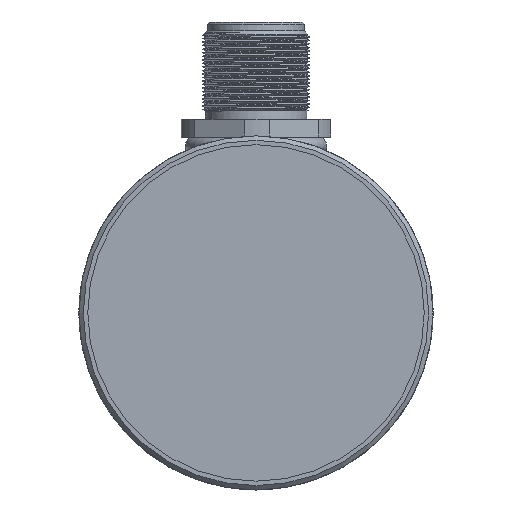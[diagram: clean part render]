
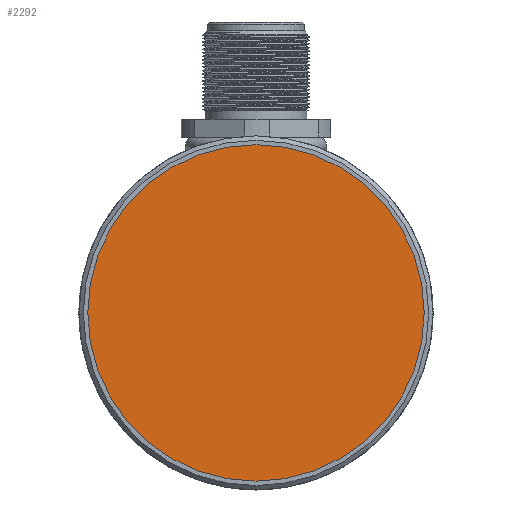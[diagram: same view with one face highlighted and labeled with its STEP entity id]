
A CAD part, left-side view. The second image highlights one B-rep face of the part: STEP entity #2292.
In plain terms, the highlighted planar face has unit normal (-1, 0, 0).
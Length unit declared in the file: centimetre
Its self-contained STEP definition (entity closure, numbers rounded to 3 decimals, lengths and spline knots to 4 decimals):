
#481=CIRCLE('',#2453,1.9);
#568=VERTEX_POINT('',#3180);
#968=EDGE_CURVE('',#568,#568,#481,.T.);
#1284=ORIENTED_EDGE('',*,*,#968,.T.);
#1892=EDGE_LOOP('',(#1284));
#2094=FACE_BOUND('',#1892,.T.);
#2292=ADVANCED_FACE('',(#2094),#14546,.T.);
#2453=AXIS2_PLACEMENT_3D('',#3179,#2645,#2646);
#2455=AXIS2_PLACEMENT_3D('',#3183,#2649,$);
#2645=DIRECTION('',(-1.,0.,0.));
#2646=DIRECTION('',(0.,0.,1.9));
#2649=DIRECTION('',(-1.,0.,0.));
#3179=CARTESIAN_POINT('',(0.1,0.,0.));
#3180=CARTESIAN_POINT('',(0.1,0.,1.9));
#3183=CARTESIAN_POINT('',(0.1,0.,0.));
#14546=PLANE('',#2455);
